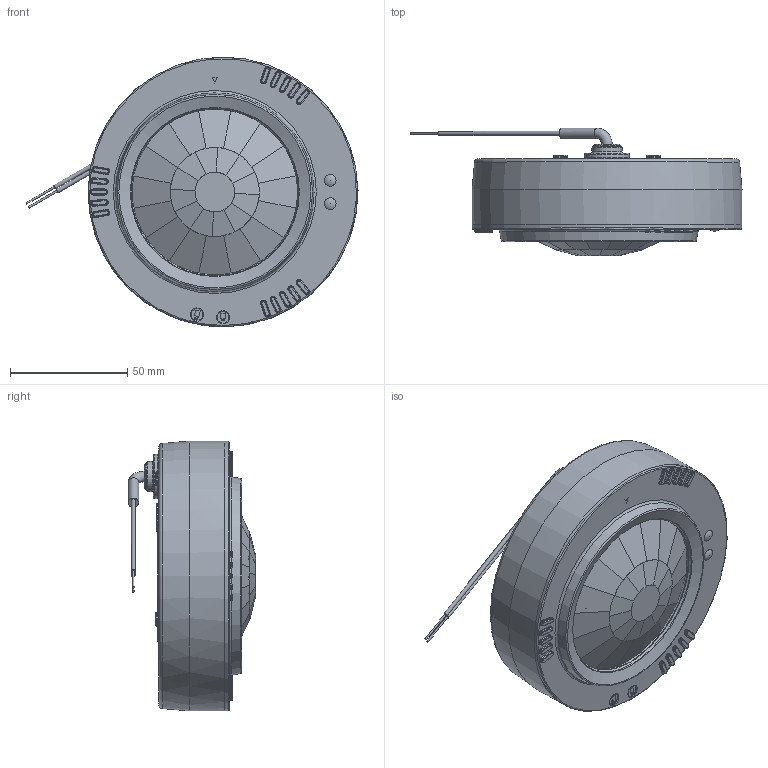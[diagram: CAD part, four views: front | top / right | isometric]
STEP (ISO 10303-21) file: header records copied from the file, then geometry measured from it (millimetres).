
FILE_DESCRIPTION(/* description */ (''),/* implementation_level */ '2;1');
FILE_NAME(/* name */ 'C:\Data\Vault\LE-TPD\9290 028 32300_EasyAir SNHB210 MC\9290-028-32306 sh-010 2020-12-21.stp',/* time_stamp */ '2020-12-22T14:04:42+01:00',/* author */ ('nly19266'),/* organization */ (''),/* preprocessor_version */ 'ST-DEVELOPER v16.5',/* originating_system */ 'Autodesk Inventor 2017',/* authorisation */ '');
FILE_SCHEMA (('CONFIG_CONTROL_DESIGN'));
Length unit declared in the file: millimetre
Products named in the file (1): 9290-028-32306 sh-010
Bounding box: 141.77 x 54.56 x 115.26 mm (x, y, z)
Volume: 343350.8 mm3; surface area: 48755.6 mm2
Topology: 1 solids, 31 shells, 933 faces, 2172 edges, 1366 vertices
Faces by surface type: plane 375, bspline 221, cylinder 127, torus 105, cone 103, sphere 2
Full cylindrical faces by diameter (mm): 0.2 x36, 0.8 x2, 1.8 x2, 2 x1, 2.4 x3, 3 x1, 4.5 x3, 4.85 x1, 10 x2, 11.4 x1, 115 x1
Entity records: 31240 total; most frequent: CARTESIAN_POINT 10588, ORIENTED_EDGE 4020, DIRECTION 3795, EDGE_CURVE 2007, AXIS2_PLACEMENT_3D 1458, VERTEX_POINT 1312, EDGE_LOOP 1163, ADVANCED_FACE 933
